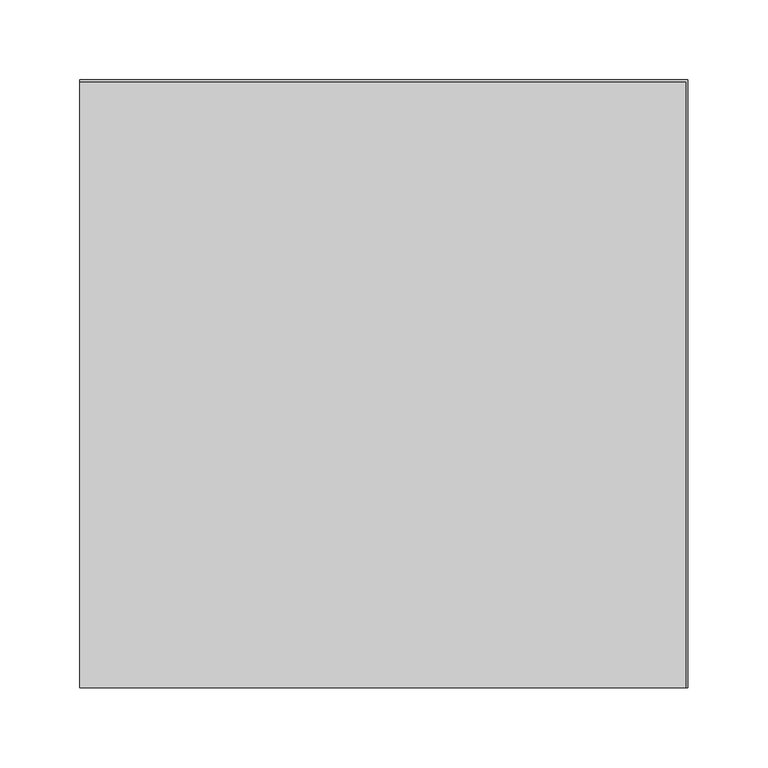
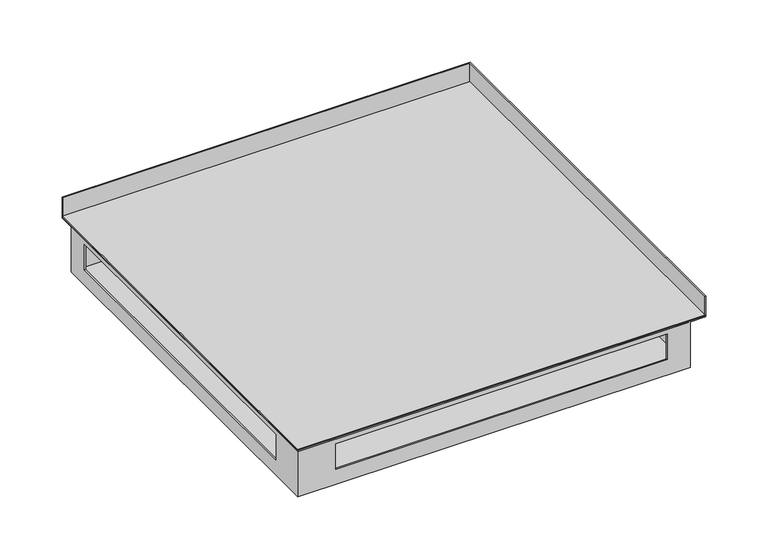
"""IFC4 building model written with IfcOpenShell, lengths in millimetres: proxy geometry, TECHNO_Угловой элемент_KVU : 380_065_90°."""

from ifc_helpers import new_model, si_unit, frame, origin, place, context, project, spatial, polyline, circle_curve, ellipse_curve, outline, extrude, source, transform, mapped, element, save
from ifc_brep_helpers import plane_surface, cylinder_surface, advanced_brep


def mechanical_equipment_cb58eeb0(model_context):
    return source(origin(), model_context, "Body", "SolidModel", [
        extrude(outline(polyline([(0.0, 188.8), (378.8, 188.8), (378.8, -190.0), (0.0, -190.0), (0.0, 188.8)])), frame((0.0, 0.0, -19.3), z_axis=(0.0, 0.0, 1.0), x_axis=(1.0, 0.0, 0.0)), (0.0, 0.0, 1.0), 1.2),
        advanced_brep(
        [(1.2, 174.0, -63.8), (1.2, -188.8, -63.8), (364.0, -188.8, -63.8), (364.0, 174.0, -63.8), (0.0, 175.2, -65.0), (365.2, 175.2, -65.0), (365.2, -190.0, -65.0), (0.0, -190.0, -65.0), (0.0, 175.2, -20.5), (0.0, -190.0, -20.5), (0.0, 174.0, -20.5), (0.0, 175.2, -19.3), (0.0, 188.8, -19.3), (0.0, 188.8, 0.0), (0.0, 190.0, 0.0), (0.0, 190.0, -19.3), (0.0, 188.8, -20.5), (0.0, -154.5, -25.0), (0.0, -154.5, -50.0), (0.0, 153.9, -50.0), (0.0, 153.9, -25.0), (365.2, -190.0, -20.5), (378.8, -190.0, -20.5), (380.0, -190.0, -19.3), (380.0, -190.0, 0.0), (378.8, -190.0, 0.0), (378.8, -190.0, -19.3), (365.2, -190.0, -19.3), (364.0, -190.0, -20.5), (35.5, -190.0, -50.0), (35.5, -190.0, -25.0), (343.9, -190.0, -25.0), (343.9, -190.0, -50.0), (365.2, 175.2, -20.5), (1.2, 175.2, -19.3), (1.2, -188.8, -19.3), (365.2, -188.8, -19.3), (378.8, 188.8, -19.3), (365.2, -174.0, -19.3), (16.0, -174.0, -19.3), (16.0, 175.2, -19.3), (365.2, 175.2, -19.3), (16.0, -174.0, -20.5), (16.0, 174.0, -20.5), (364.0, -174.0, -20.5), (364.0, -188.8, -20.5), (1.2, -188.8, -20.5), (1.2, 174.0, -20.5), (1.2, -154.5, -50.0), (1.2, -154.5, -25.0), (1.2, 153.9, -25.0), (1.2, 153.9, -50.0), (35.5, -188.8, -25.0), (35.5, -188.8, -50.0), (343.9, -188.8, -50.0), (343.9, -188.8, -25.0), (380.0, 190.0, -19.3), (380.0, 190.0, 0.0), (378.8, 188.8, 0.0), (378.8, 188.8, -20.5), (364.0, 174.0, -20.5)],
        [
            (0, 1),
            (1, 2),
            (2, 3),
            (3, 0),
            (4, 5),
            (5, 6),
            (6, 7),
            (7, 4),
            (8, 4),
            (7, 9),
            (9, 10),
            (10, 11, circle_curve(frame((0.0, 175.2, -20.5), z_axis=(-1.0, 0.0, 0.0), x_axis=(0.0, -1.0, 0.0)), 1.2)),
            (11, 12),
            (12, 13),
            (13, 14),
            (14, 15),
            (15, 16, circle_curve(frame((0.0, 188.8, -19.3), z_axis=(-1.0, 0.0, 0.0), x_axis=(0.0, -1.0, 0.0)), 1.2)),
            (16, 8),
            (17, 18),
            (18, 19),
            (19, 20),
            (20, 17),
            (6, 21),
            (21, 22),
            (22, 23, circle_curve(frame((378.8, -190.0, -19.3), z_axis=(0.0, -1.0, 0.0), x_axis=(-1.0, 0.0, 0.0)), 1.2)),
            (23, 24),
            (24, 25),
            (25, 26),
            (26, 27),
            (27, 28, circle_curve(frame((365.2, -190.0, -20.5), z_axis=(0.0, -1.0, 0.0), x_axis=(-1.0, 0.0, 0.0)), 1.2)),
            (28, 9),
            (29, 30),
            (30, 31),
            (31, 32),
            (32, 29),
            (8, 33),
            (33, 5),
            (33, 21),
            (34, 35),
            (35, 36),
            (36, 27),
            (26, 37),
            (37, 12),
            (11, 34),
            (38, 39),
            (39, 40),
            (40, 41),
            (41, 38),
            (39, 42),
            (42, 43),
            (43, 40, circle_curve(frame((16.0, 175.2, -20.5), z_axis=(-1.0, 0.0, 0.0), x_axis=(0.0, -1.0, 0.0)), 1.2)),
            (38, 44, circle_curve(frame((365.2, -174.0, -20.5), z_axis=(0.0, -1.0, 0.0), x_axis=(-1.0, 0.0, 0.0)), 1.2)),
            (44, 42),
            (44, 45),
            (45, 46),
            (46, 47),
            (47, 43),
            (46, 1),
            (0, 47),
            (48, 49),
            (49, 50),
            (50, 51),
            (51, 48),
            (45, 2),
            (52, 53),
            (53, 54),
            (54, 55),
            (55, 52),
            (34, 10, ellipse_curve(frame((1.2, 175.2, -20.5), z_axis=(0.7071067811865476, -0.7071067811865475, 0.0), x_axis=(0.7071067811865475, 0.7071067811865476, 0.0)), 1.6970563, 1.2)),
            (9, 35, ellipse_curve(frame((1.2, -188.8, -20.5), z_axis=(-0.7071067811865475, 0.7071067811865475, 0.0), x_axis=(0.7071067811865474, 0.7071067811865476, 0.0)), 1.6970563, 1.2)),
            (28, 36, ellipse_curve(frame((365.2, -188.8, -20.5), z_axis=(-0.7071067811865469, 0.707106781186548, 0.0), x_axis=(-0.7071067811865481, -0.7071067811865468, 0.0)), 1.6970563, 1.2)),
            (23, 56),
            (56, 57),
            (57, 24),
            (57, 14),
            (13, 58),
            (58, 25),
            (58, 37),
            (16, 59),
            (59, 22),
            (59, 56, ellipse_curve(frame((378.8, 188.8, -19.3), z_axis=(0.707106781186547, -0.707106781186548, 0.0), x_axis=(-0.707106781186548, -0.707106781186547, 0.0)), 1.6970563, 1.2)),
            (56, 15),
            (41, 60, ellipse_curve(frame((365.2, 175.2, -20.5), z_axis=(0.707106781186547, -0.707106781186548, 0.0), x_axis=(-0.707106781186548, -0.707106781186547, 0.0)), 1.6970563, 1.2)),
            (60, 44),
            (60, 3),
            (43, 60),
            (48, 18),
            (17, 49),
            (51, 19),
            (50, 20),
            (52, 30),
            (29, 53),
            (55, 31),
            (54, 32),
        ],
        [
            plane_surface(frame((0.0, 174.0, -63.8), z_axis=(0.0, 0.0, 1.0), x_axis=(0.0, -1.0, 0.0))),
            plane_surface(frame((0.0, 174.0, -65.0), z_axis=(0.0, 0.0, -1.0), x_axis=(0.0, 1.0, 0.0))),
            plane_surface(frame((0.0, 174.0, -63.8), z_axis=(-1.0, 0.0, 0.0), x_axis=(0.0, 0.0, -1.0))),
            plane_surface(frame((0.0, -190.0, -63.8), z_axis=(0.0, -1.0, 0.0), x_axis=(0.0, 0.0, -1.0))),
            plane_surface(frame((0.0, 175.2, -65.0), z_axis=(0.0, 1.0, 0.0), x_axis=(0.0, 0.0, -1.0))),
            plane_surface(frame((365.2, -190.0, -65.0), z_axis=(1.0, 0.0, 0.0), x_axis=(0.0, 0.0, -1.0))),
            plane_surface(frame((1.2, 175.2, -19.3), z_axis=(0.0, 0.0, 1.0), x_axis=(0.0, -1.0, 0.0))),
            plane_surface(frame((16.0, 175.2, -19.3), z_axis=(1.0, 0.0, 0.0), x_axis=(0.0, -1.0, 0.0))),
            plane_surface(frame((16.0, -174.0, -19.3), z_axis=(0.0, 1.0, 0.0), x_axis=(1.0, 0.0, 0.0))),
            plane_surface(frame((16.0, 175.2, -20.5), z_axis=(0.0, 0.0, -1.0), x_axis=(0.0, -1.0, 0.0))),
            plane_surface(frame((1.2, 175.2, -20.5), z_axis=(1.0, 0.0, 0.0), x_axis=(0.0, -1.0, 0.0))),
            plane_surface(frame((1.2, -188.8, -20.5), z_axis=(0.0, 1.0, 0.0), x_axis=(1.0, 0.0, 0.0))),
            cylinder_surface(frame((1.2, 175.2, -20.5), z_axis=(0.0, 1.0, 0.0), x_axis=(-1.0, 0.0, 0.0)), 1.2),
            cylinder_surface(frame((0.0, -188.8, -20.5), z_axis=(-1.0, 0.0, 0.0), x_axis=(0.0, -1.0, 0.0)), 1.2),
            plane_surface(frame((380.0, -190.0, -19.3), z_axis=(1.0, 0.0, 0.0), x_axis=(0.0, 1.0, 0.0))),
            plane_surface(frame((380.0, -190.0, 0.0), z_axis=(0.0, 0.0, 1.0), x_axis=(0.0, 1.0, 0.0))),
            plane_surface(frame((378.8, -190.0, 0.0), z_axis=(-1.0, 0.0, 0.0), x_axis=(0.0, 1.0, 0.0))),
            plane_surface(frame((365.2, -190.0, -20.5), z_axis=(0.0, 0.0, -1.0), x_axis=(0.0, 1.0, 0.0))),
            cylinder_surface(frame((378.8, -190.0, -19.3), z_axis=(0.0, -1.0, 0.0), x_axis=(-1.0, 0.0, 0.0)), 1.2),
            plane_surface(frame((380.0, 190.0, -19.3), z_axis=(0.0, 1.0, 0.0), x_axis=(-1.0, 0.0, 0.0))),
            plane_surface(frame((378.8, 188.8, 0.0), z_axis=(0.0, -1.0, 0.0), x_axis=(-1.0, 0.0, 0.0))),
            cylinder_surface(frame((190.0, 188.8, -19.3), z_axis=(1.0, 0.0, 0.0), x_axis=(0.0, -1.0, 0.0)), 1.2),
            cylinder_surface(frame((365.2, -190.0, -20.5), z_axis=(0.0, -1.0, 0.0), x_axis=(-1.0, 0.0, 0.0)), 1.2),
            plane_surface(frame((364.0, -190.0, -20.5), z_axis=(-1.0, 0.0, 0.0), x_axis=(0.0, 1.0, 0.0))),
            cylinder_surface(frame((190.0, 175.2, -20.5), z_axis=(1.0, 0.0, 0.0), x_axis=(0.0, -1.0, 0.0)), 1.2),
            plane_surface(frame((364.0, 174.0, -20.5), z_axis=(0.0, -1.0, 0.0), x_axis=(-1.0, 0.0, 0.0))),
            plane_surface(frame((1.2, -154.5, -25.0), z_axis=(0.0, 1.0, 0.0), x_axis=(-1.0, 0.0, 0.0))),
            plane_surface(frame((1.2, -154.5, -50.0), z_axis=(0.0, 0.0, 1.0), x_axis=(-1.0, 0.0, 0.0))),
            plane_surface(frame((1.2, 153.9, -50.0), z_axis=(0.0, -1.0, 0.0), x_axis=(-1.0, 0.0, 0.0))),
            plane_surface(frame((1.2, 153.9, -25.0), z_axis=(0.0, 0.0, -1.0), x_axis=(-1.0, 0.0, 0.0))),
            plane_surface(frame((35.5, -188.8, -50.0), z_axis=(1.0, 0.0, 0.0), x_axis=(0.0, -1.0, 0.0))),
            plane_surface(frame((35.5, -188.8, -25.0), z_axis=(0.0, 0.0, -1.0), x_axis=(0.0, -1.0, 0.0))),
            plane_surface(frame((343.9, -188.8, -25.0), z_axis=(-1.0, 0.0, 0.0), x_axis=(0.0, -1.0, 0.0))),
            plane_surface(frame((343.9, -188.8, -50.0), z_axis=(0.0, 0.0, 1.0), x_axis=(0.0, -1.0, 0.0))),
        ],
        [
            (0, [[1, 2, 3, 4]]),
            (1, [[5, 6, 7, 8]]),
            (2, [[9, -8, 10, 11, 12, 13, 14, 15, 16, 17, 18], [19, 20, 21, 22]]),
            (3, [[23, 24, 25, 26, 27, 28, 29, 30, 31, -10, -7], [32, 33, 34, 35]]),
            (4, [[-9, 36, 37, -5]]),
            (5, [[-23, -6, -37, 38]]),
            (6, [[39, 40, 41, -29, 42, 43, -13, 44], [45, 46, 47, 48]]),
            (7, [[-46, 49, 50, 51]]),
            (8, [[-45, 52, 53, -49]]),
            (9, [[-50, -53, 54, 55, 56, 57]]),
            (10, [[58, -1, 59, -56], [60, 61, 62, 63]]),
            (11, [[-58, -55, 64, -2], [65, 66, 67, 68]]),
            (12, [[-39, 69, -11, 70]]),
            (13, [[-40, -70, -31, 71]]),
            (14, [[-26, 72, 73, 74]]),
            (15, [[-27, -74, 75, -15, 76, 77]]),
            (16, [[-28, -77, 78, -42]]),
            (17, [[-24, -38, -36, -18, 79, 80]]),
            (18, [[-25, -80, 81, -72]]),
            (19, [[-73, 82, -16, -75]]),
            (20, [[-76, -14, -43, -78]]),
            (21, [[-79, -17, -82, -81]]),
            (22, [[-30, -41, -71]]),
            (22, [[83, 84, -52, -48]]),
            (23, [[85, -3, -64, -54, -84]]),
            (24, [[-12, -69, -44]]),
            (24, [[-83, -47, -51, 86]]),
            (25, [[-85, -86, -57, -59, -4]]),
            (26, [[87, -19, 88, -60]]),
            (27, [[-87, -63, 89, -20]]),
            (28, [[-89, -62, 90, -21]]),
            (29, [[-88, -22, -90, -61]]),
            (30, [[91, -32, 92, -65]]),
            (31, [[-91, -68, 93, -33]]),
            (32, [[-93, -67, 94, -34]]),
            (33, [[-92, -35, -94, -66]]),
        ],
    ),
    ])


if __name__ == "__main__":
    model = new_model("IFC4")
    model_context = context("Model", 3, world=origin())
    ifc_project = project(units=[si_unit("LENGTHUNIT", "METRE", prefix="MILLI")], contexts=[model_context])
    site = spatial("IfcSite", under=ifc_project)
    building = spatial("IfcBuilding", under=site)
    placement = place(None, origin())
    mechanical_equipment_shape = mechanical_equipment_cb58eeb0(model_context)
    element("IfcBuildingElementProxy", 1, Name="TECHNO_Угловой элемент_KVU : 380_065_90°", ObjectType="TECHNO_Угловой элемент_KVU : 380_065_90°", at=placement, inside=building, context=model_context, shape_type="MappedRepresentation", body=[
        mapped(mechanical_equipment_shape, transform((0.0, 0.0, 0.0), x_axis=(1.0, 0.0, 0.0), y_axis=(0.0, 1.0, 0.0), z_axis=(0.0, 0.0, 1.0))),
    ])
    save(model, "model.ifc")
